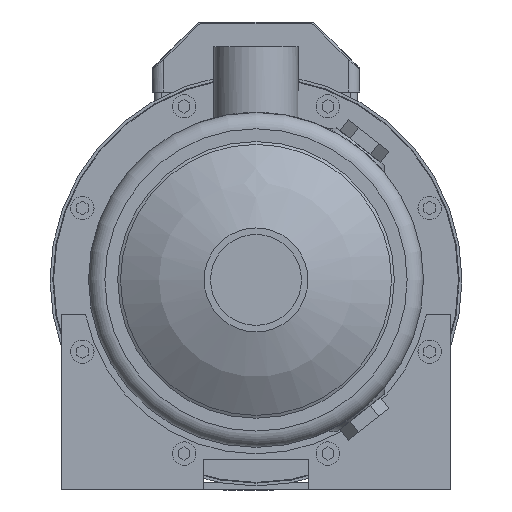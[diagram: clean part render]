
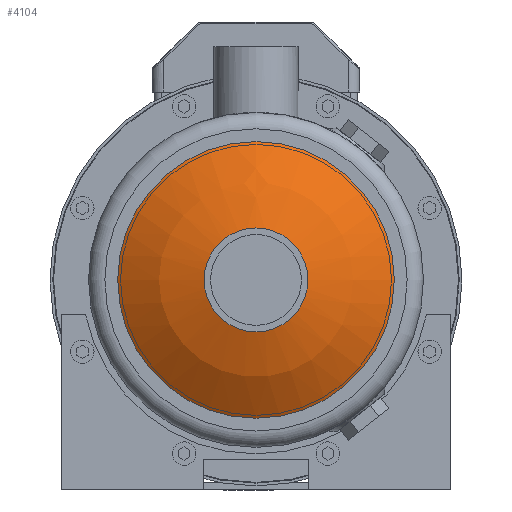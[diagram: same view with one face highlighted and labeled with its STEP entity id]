
A CAD part, left-side view. The second image highlights one B-rep face of the part: STEP entity #4104.
In plain terms, the highlighted spherical face has radius 100 mm.
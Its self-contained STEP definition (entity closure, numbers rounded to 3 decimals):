
#63=SPHERICAL_SURFACE('',#5494,100.);
#950=ORIENTED_EDGE('',*,*,#2059,.T.);
#951=ORIENTED_EDGE('',*,*,#2058,.F.);
#2058=EDGE_CURVE('',#2617,#2617,#3000,.T.);
#2059=EDGE_CURVE('',#2618,#2618,#3001,.T.);
#2617=VERTEX_POINT('',#7339);
#2618=VERTEX_POINT('',#7342);
#3000=CIRCLE('',#5493,22.25);
#3001=CIRCLE('',#5495,59.25);
#3186=EDGE_LOOP('',(#950));
#3187=EDGE_LOOP('',(#951));
#3571=FACE_BOUND('',#3186,.T.);
#3572=FACE_BOUND('',#3187,.T.);
#4104=ADVANCED_FACE('',(#3571,#3572),#63,.T.);
#5493=AXIS2_PLACEMENT_3D('',#7338,#5996,#5997);
#5494=AXIS2_PLACEMENT_3D('',#7340,#5998,#5999);
#5495=AXIS2_PLACEMENT_3D('',#7341,#6000,#6001);
#5996=DIRECTION('',(-1.,0.,0.));
#5997=DIRECTION('',(0.,0.,1.));
#5998=DIRECTION('',(-1.,0.,0.));
#5999=DIRECTION('',(0.,0.,1.));
#6000=DIRECTION('',(-1.,0.,0.));
#6001=DIRECTION('',(0.,0.,1.));
#7338=CARTESIAN_POINT('',(-91.293,0.,0.));
#7339=CARTESIAN_POINT('',(-91.293,0.,22.25));
#7340=CARTESIAN_POINT('',(6.2,0.,0.));
#7341=CARTESIAN_POINT('',(-74.357,0.,0.));
#7342=CARTESIAN_POINT('',(-74.357,0.,59.25));
